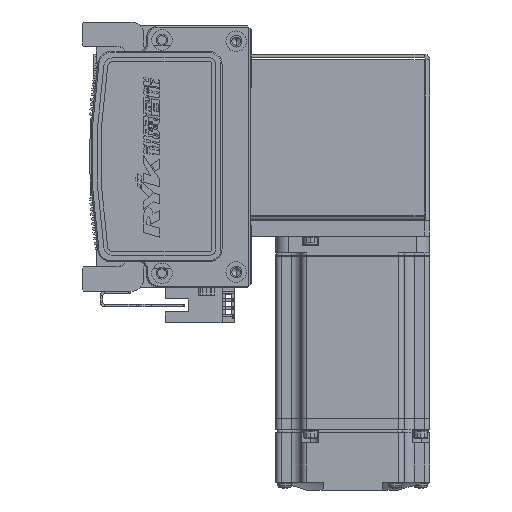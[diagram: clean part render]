
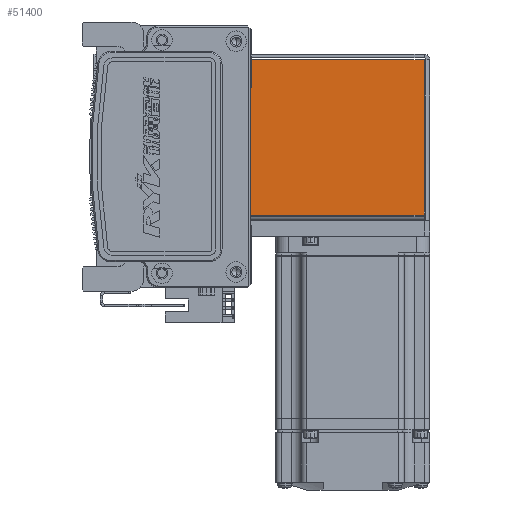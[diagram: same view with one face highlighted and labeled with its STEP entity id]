
A CAD part, left-side view. The second image highlights one B-rep face of the part: STEP entity #51400.
In plain terms, the highlighted planar face has unit normal (-1, 0, 0) as drawn and (0, 0, -1) by its records, which use the part's own axes.
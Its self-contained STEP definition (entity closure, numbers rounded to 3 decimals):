
#2959 = LINE ( 'NONE', #60985, #40968 ) ;
#4224 = VECTOR ( 'NONE', #64415, 1000. ) ;
#11277 = EDGE_CURVE ( 'NONE', #39574, #43393, #26993, .T. ) ;
#12887 = CARTESIAN_POINT ( 'NONE',  ( 30.263, 0.737, -35. ) ) ;
#13350 = ORIENTED_EDGE ( 'NONE', *, *, #64176, .T. ) ;
#18553 = DIRECTION ( 'NONE',  ( 0., -1., 0. ) ) ;
#18622 = DIRECTION ( 'NONE',  ( 0., 1., 0. ) ) ;
#19217 = LINE ( 'NONE', #69869, #4224 ) ;
#19717 = ORIENTED_EDGE ( 'NONE', *, *, #47240, .T. ) ;
#20256 = CARTESIAN_POINT ( 'NONE',  ( -30.293, 0.737, -35. ) ) ;
#20621 = VERTEX_POINT ( 'NONE', #24408 ) ;
#21246 = VECTOR ( 'NONE', #18622, 1000. ) ;
#23353 = CARTESIAN_POINT ( 'NONE',  ( -30.293, 0., -35. ) ) ;
#24408 = CARTESIAN_POINT ( 'NONE',  ( -30.293, 72.5, -35. ) ) ;
#26993 = LINE ( 'NONE', #28901, #30511 ) ;
#28901 = CARTESIAN_POINT ( 'NONE',  ( 32.5, 0.737, -35. ) ) ;
#29552 = ORIENTED_EDGE ( 'NONE', *, *, #11277, .F. ) ;
#30511 = VECTOR ( 'NONE', #68349, 1000. ) ;
#39574 = VERTEX_POINT ( 'NONE', #20256 ) ;
#40968 = VECTOR ( 'NONE', #72654, 1000. ) ;
#40975 = CARTESIAN_POINT ( 'NONE',  ( 30.263, 72.5, -35. ) ) ;
#43393 = VERTEX_POINT ( 'NONE', #12887 ) ;
#46012 = EDGE_LOOP ( 'NONE', ( #19717, #29552, #13350, #72814 ) ) ;
#46194 = DIRECTION ( 'NONE',  ( 0., 0., 1. ) ) ;
#46654 = PLANE ( 'NONE',  #61691 ) ;
#47240 = EDGE_CURVE ( 'NONE', #50225, #43393, #2959, .T. ) ;
#50225 = VERTEX_POINT ( 'NONE', #40975 ) ;
#51193 = LINE ( 'NONE', #23353, #21246 ) ;
#51400 = ADVANCED_FACE ( 'NONE', ( #53553 ), #46654, .F. ) ;
#51608 = EDGE_CURVE ( 'NONE', #20621, #50225, #19217, .T. ) ;
#53553 = FACE_OUTER_BOUND ( 'NONE', #46012, .T. ) ;
#57246 = CARTESIAN_POINT ( 'NONE',  ( 0., 0., -35. ) ) ;
#60985 = CARTESIAN_POINT ( 'NONE',  ( 30.263, 72.5, -35. ) ) ;
#61691 = AXIS2_PLACEMENT_3D ( 'NONE', #57246, #46194, #18553 ) ;
#64176 = EDGE_CURVE ( 'NONE', #39574, #20621, #51193, .T. ) ;
#64415 = DIRECTION ( 'NONE',  ( 1., 0., 0. ) ) ;
#68349 = DIRECTION ( 'NONE',  ( 1., 0., 0. ) ) ;
#69869 = CARTESIAN_POINT ( 'NONE',  ( 0., 72.5, -35. ) ) ;
#72654 = DIRECTION ( 'NONE',  ( 0., -1., 0. ) ) ;
#72814 = ORIENTED_EDGE ( 'NONE', *, *, #51608, .T. ) ;
